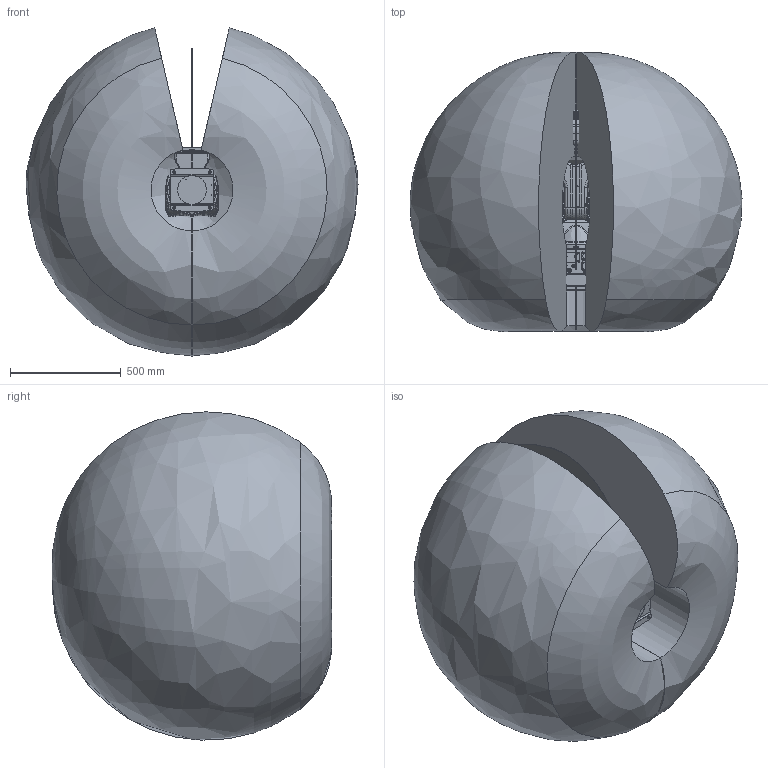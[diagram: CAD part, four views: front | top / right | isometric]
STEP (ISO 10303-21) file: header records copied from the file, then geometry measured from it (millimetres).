
FILE_DESCRIPTION((''),'2;1');
FILE_NAME('R6S-1_NON-HOLLOW_ASM','2022-12-17T11:11:38',('Administrator'),(''),'CREO PARAMETRIC BY PTC INC, 2018260','CREO PARAMETRIC BY PTC INC, 2018260','');
FILE_SCHEMA(('CONFIG_CONTROL_DESIGN','SHAPE_APPEARANCE_LAYERS_GROUPS'));
Products named in the file (10): R6S-1_NON-HOLLOW_BASE; R6S-1_NON-HOLLOW_JOINT1; R6S-1_NON-HOLLOW_JOINT2; R6S-1_NON-HOLLOW_JOINT3; R6S-1_NON-HOLLOW_JOINT4; R6S-1_NON-HOLLOW_JOINT5; R6S-1_NON-HOLLOW_JOINT6; R6S-1_NON-HOLLOW_RANGE; R6S-1_NON-HOLLOW_RANGE_2; R6S-1_NON-HOLLOW_ASM
Assembly tree (9 placements, depth 2):
  R6S-1_NON-HOLLOW_ASM
    R6S-1_NON-HOLLOW_BASE
    R6S-1_NON-HOLLOW_JOINT1
    R6S-1_NON-HOLLOW_JOINT2
    R6S-1_NON-HOLLOW_JOINT3
    R6S-1_NON-HOLLOW_JOINT4
    R6S-1_NON-HOLLOW_JOINT5
    R6S-1_NON-HOLLOW_JOINT6
    R6S-1_NON-HOLLOW_RANGE
    R6S-1_NON-HOLLOW_RANGE_2
Bounding box: 1498.53 x 1261.01 x 1481.82 mm (x, y, z)
Volume: 1428841711.1 mm3; surface area: 11678130.4 mm2
Topology: 9 solids, 36 shells, 5850 faces, 14377 edges, 8638 vertices
Faces by surface type: cylinder 1624, bspline 1564, plane 1118, torus 752, cone 694, sphere 92, extrusion 6
Entity records: 253280 total; most frequent: CARTESIAN_POINT 127997, ORIENTED_EDGE 28238, DIRECTION 23270, EDGE_CURVE 14119, AXIS2_PLACEMENT_3D 9686, VERTEX_POINT 8638, EDGE_LOOP 6283, FACE_OUTER_BOUND 5850
